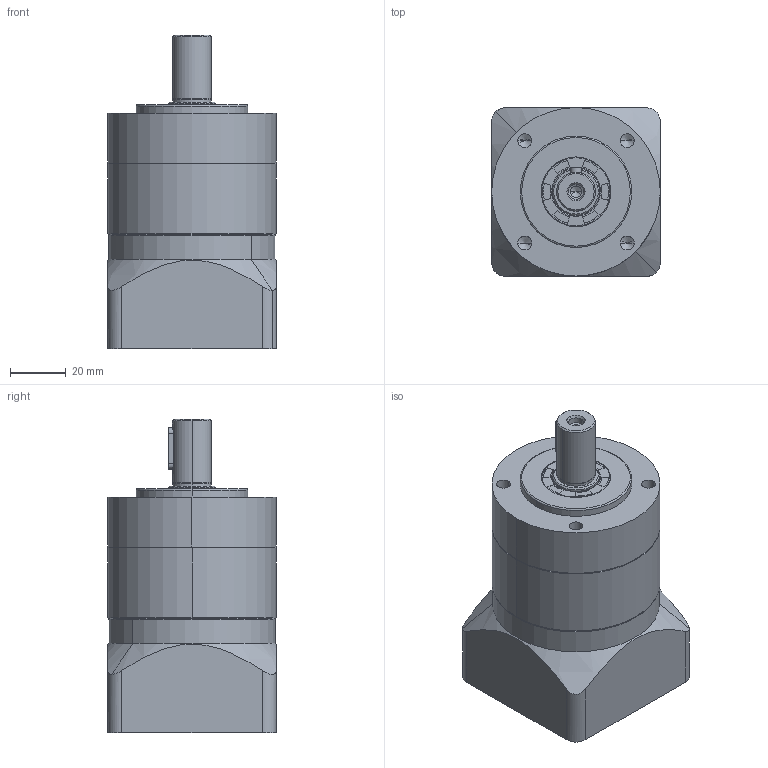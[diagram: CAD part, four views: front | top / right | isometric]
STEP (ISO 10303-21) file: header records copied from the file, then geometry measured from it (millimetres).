
FILE_DESCRIPTION (( 'STEP AP203' ), '1' );
FILE_NAME ('NB60-L1(8-36-70.71-M4).STEP', '2022-03-12T16:50:57', ( '' ), ( '' ), 'SwSTEP 2.0', 'SolidWorks 2016', '' );
FILE_SCHEMA (( 'CONFIG_CONTROL_DESIGN' ));
Length unit declared in the file: millimetre
Products named in the file (9): NB60-L1(8-36-70.71-M4); NB60-(40x3-52-M5); 60-(o14-8x17); SN60-34x20x10.5-M5; SN60-17x25x4; SN60-(14); SN60-(14x24-4x15); SN60-(36-70.71-M4); SN60
Assembly tree (8 placements, depth 2):
  NB60-L1(8-36-70.71-M4)
    NB60-(40x3-52-M5)
    SN60-17x25x4
    SN60-(14x24-4x15)
    SN60
    SN60-(36-70.71-M4)
    SN60-(14)
    60-(o14-8x17)
    SN60-34x20x10.5-M5
Bounding box: 60.5 x 60.5 x 112.6 mm (x, y, z)
Volume: 254749.9 mm3; surface area: 65964.8 mm2
Topology: 11 solids, 11 shells, 422 faces, 1063 edges, 668 vertices
Faces by surface type: cylinder 208, plane 105, cone 62, bspline 39, torus 8
Entity records: 31966 total; most frequent: CARTESIAN_POINT 21483, ORIENTED_EDGE 2074, DIRECTION 1926, EDGE_CURVE 1037, AXIS2_PLACEMENT_3D 760, VERTEX_POINT 668, EDGE_LOOP 485, FACE_OUTER_BOUND 422
